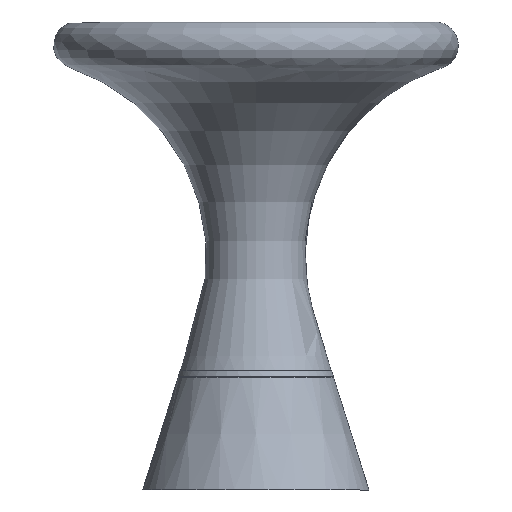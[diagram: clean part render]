
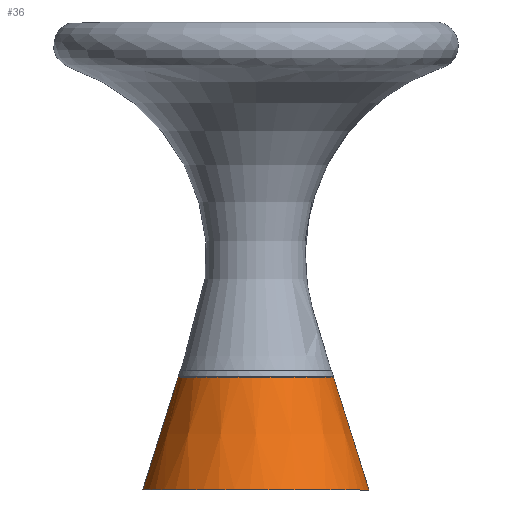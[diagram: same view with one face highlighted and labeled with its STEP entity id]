
A CAD part, front view. The second image highlights one B-rep face of the part: STEP entity #36.
In plain terms, the highlighted free-form (B-spline) face has degree [2, 2] with [3, 9] control points.
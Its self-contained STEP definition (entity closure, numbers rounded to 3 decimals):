
#36=ADVANCED_FACE('',(#55),#257,.T.);
#55=FACE_OUTER_BOUND('',#75,.T.);
#75=EDGE_LOOP('',(#138,#139,#140,#141));
#138=ORIENTED_EDGE('',*,*,#184,.T.);
#139=ORIENTED_EDGE('',*,*,#181,.T.);
#140=ORIENTED_EDGE('',*,*,#184,.F.);
#141=ORIENTED_EDGE('',*,*,#183,.F.);
#181=EDGE_CURVE('',#238,#238,#208,.T.);
#183=EDGE_CURVE('',#243,#243,#210,.T.);
#184=EDGE_CURVE('',#243,#238,#211,.T.);
#208=(
BOUNDED_CURVE()
B_SPLINE_CURVE(2,(#1065,#1066,#1067,#1068,#1069,#1070,#1071,#1072,#1073),
 .UNSPECIFIED.,.T.,.F.)
B_SPLINE_CURVE_WITH_KNOTS((3,2,2,2,3),(0.,186.744,373.488,
560.232,746.976),.UNSPECIFIED.)
CURVE()
GEOMETRIC_REPRESENTATION_ITEM()
RATIONAL_B_SPLINE_CURVE((1.,0.707,1.,0.707,1.,0.707,
1.,0.707,1.))
REPRESENTATION_ITEM('')
);
#210=(
BOUNDED_CURVE()
B_SPLINE_CURVE(2,(#1083,#1084,#1085,#1086,#1087,#1088,#1089,#1090,#1091),
 .UNSPECIFIED.,.T.,.F.)
B_SPLINE_CURVE_WITH_KNOTS((3,2,2,2,3),(0.,129.013,
258.026,387.039,516.052),.UNSPECIFIED.)
CURVE()
GEOMETRIC_REPRESENTATION_ITEM()
RATIONAL_B_SPLINE_CURVE((1.,0.707,1.,0.707,1.,0.707,
1.,0.707,1.))
REPRESENTATION_ITEM('')
);
#211=(
BOUNDED_CURVE()
B_SPLINE_CURVE(2,(#1092,#1093,#1094),.UNSPECIFIED.,.F.,.F.)
B_SPLINE_CURVE_WITH_KNOTS((3,3),(230.898,356.254),
 .UNSPECIFIED.)
CURVE()
GEOMETRIC_REPRESENTATION_ITEM()
RATIONAL_B_SPLINE_CURVE((1.,1.,1.))
REPRESENTATION_ITEM('')
);
#238=VERTEX_POINT('',#1017);
#243=VERTEX_POINT('',#1022);
#257=(
BOUNDED_SURFACE()
B_SPLINE_SURFACE(2,2,((#934,#935,#936,#937,#938,#939,#940,#941,#942),(#943,
#944,#945,#946,#947,#948,#949,#950,#951),(#952,#953,#954,#955,#956,#957,
#958,#959,#960)),.UNSPECIFIED.,.F.,.F.,.F.)
B_SPLINE_SURFACE_WITH_KNOTS((3,3),(3,2,2,2,3),(230.531,356.254),
(0.,186.744,373.488,560.232,746.976),
 .UNSPECIFIED.)
GEOMETRIC_REPRESENTATION_ITEM()
RATIONAL_B_SPLINE_SURFACE(((1.,0.707,1.,0.707,1.,
0.707,1.,0.707,1.),(1.,0.707,1.,0.707,
1.,0.707,1.,0.707,1.),(1.,0.707,1.,
0.707,1.,0.707,1.,0.707,1.)))
REPRESENTATION_ITEM('')
SURFACE()
);
#934=CARTESIAN_POINT('',(-82.5,0.,120.));
#935=CARTESIAN_POINT('',(-82.5,-82.5,120.));
#936=CARTESIAN_POINT('',(0.,-82.5,120.));
#937=CARTESIAN_POINT('',(82.5,-82.5,120.));
#938=CARTESIAN_POINT('',(82.5,0.,120.));
#939=CARTESIAN_POINT('',(82.5,82.5,120.));
#940=CARTESIAN_POINT('',(0.,82.5,120.));
#941=CARTESIAN_POINT('',(-82.5,82.5,120.));
#942=CARTESIAN_POINT('',(-82.5,0.,120.));
#943=CARTESIAN_POINT('',(-101.25,0.,60.));
#944=CARTESIAN_POINT('',(-101.25,-101.25,60.));
#945=CARTESIAN_POINT('',(0.,-101.25,60.));
#946=CARTESIAN_POINT('',(101.25,-101.25,60.));
#947=CARTESIAN_POINT('',(101.25,0.,60.));
#948=CARTESIAN_POINT('',(101.25,101.25,60.));
#949=CARTESIAN_POINT('',(0.,101.25,60.));
#950=CARTESIAN_POINT('',(-101.25,101.25,60.));
#951=CARTESIAN_POINT('',(-101.25,0.,60.));
#952=CARTESIAN_POINT('',(-120.,0.,0.));
#953=CARTESIAN_POINT('',(-120.,-120.,0.));
#954=CARTESIAN_POINT('',(0.,-120.,0.));
#955=CARTESIAN_POINT('',(120.,-120.,0.));
#956=CARTESIAN_POINT('',(120.,0.,0.));
#957=CARTESIAN_POINT('',(120.,120.,0.));
#958=CARTESIAN_POINT('',(0.,120.,0.));
#959=CARTESIAN_POINT('',(-120.,120.,0.));
#960=CARTESIAN_POINT('',(-120.,0.,0.));
#1017=CARTESIAN_POINT('',(-120.,0.,0.));
#1022=CARTESIAN_POINT('',(-82.61,0.,119.649));
#1065=CARTESIAN_POINT('',(-120.,0.,0.));
#1066=CARTESIAN_POINT('',(-120.,-120.,0.));
#1067=CARTESIAN_POINT('',(0.,-120.,0.));
#1068=CARTESIAN_POINT('',(120.,-120.,0.));
#1069=CARTESIAN_POINT('',(120.,0.,0.));
#1070=CARTESIAN_POINT('',(120.,120.,0.));
#1071=CARTESIAN_POINT('',(0.,120.,0.));
#1072=CARTESIAN_POINT('',(-120.,120.,0.));
#1073=CARTESIAN_POINT('',(-120.,0.,0.));
#1083=CARTESIAN_POINT('',(-82.61,0.,119.649));
#1084=CARTESIAN_POINT('',(-82.61,-82.61,119.649));
#1085=CARTESIAN_POINT('',(0.,-82.61,119.649));
#1086=CARTESIAN_POINT('',(82.61,-82.61,119.649));
#1087=CARTESIAN_POINT('',(82.61,0.,119.649));
#1088=CARTESIAN_POINT('',(82.61,82.61,119.649));
#1089=CARTESIAN_POINT('',(0.,82.61,119.649));
#1090=CARTESIAN_POINT('',(-82.61,82.61,119.649));
#1091=CARTESIAN_POINT('',(-82.61,0.,119.649));
#1092=CARTESIAN_POINT('',(-82.61,0.,119.649));
#1093=CARTESIAN_POINT('',(-101.305,0.,59.825));
#1094=CARTESIAN_POINT('',(-120.,0.,0.));
